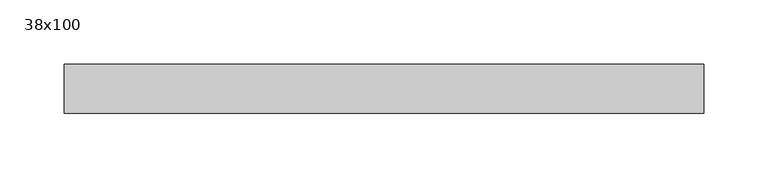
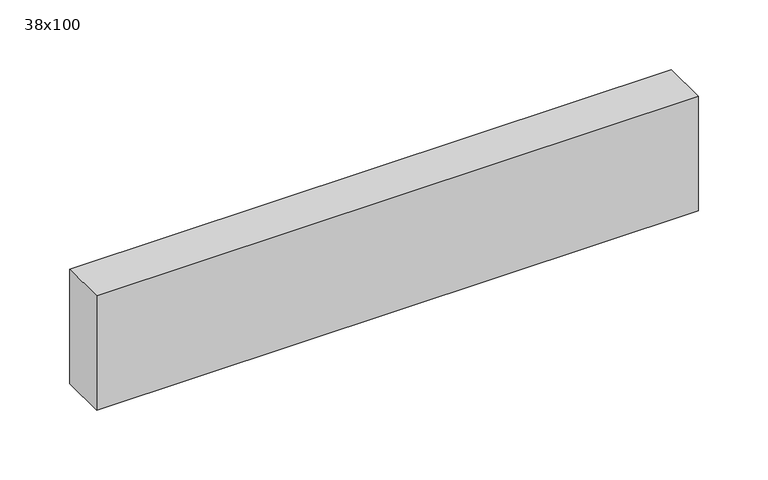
"""IFC4 building model written with IfcOpenShell, lengths in millimetres: beam geometry, Poutre - Bois de construction de dimensions courantes : 38x100."""

from ifc_helpers import new_model, si_unit, frame, origin, place, context, project, spatial, polyline, outline, extrude, source, transform, mapped, element, save


def beam_38x100_e8b27aac(model_context):
    return source(origin(), model_context, "Body", "SweptSolid", [
        extrude(outline(polyline([(168.5, 19.05), (168.5, -19.05), (-328.5, -19.05), (-328.5, 19.05), (168.5, 19.05)])), frame((0.0, 0.0, -50.0), z_axis=(0.0, 0.0, 1.0), x_axis=(1.0, 0.0, 0.0)), (0.0, 0.0, 1.0), 100.0),
    ])


if __name__ == "__main__":
    model = new_model("IFC4")
    model_context = context("Model", 3, world=origin())
    ifc_project = project(units=[si_unit("LENGTHUNIT", "METRE", prefix="MILLI")], contexts=[model_context])
    site = spatial("IfcSite", under=ifc_project)
    building = spatial("IfcBuilding", under=site)
    placement = place(None, origin())
    beam_38x100_shape = beam_38x100_e8b27aac(model_context)
    element("IfcBeam", 1, ObjectType="Poutre - Bois de construction de dimensions courantes : 38x100", at=placement, inside=building, context=model_context, shape_type="MappedRepresentation", body=[
        mapped(beam_38x100_shape, transform((0.0, 0.0, 0.0), x_axis=(1.0, 0.0, 0.0), y_axis=(0.0, 1.0, 0.0), z_axis=(0.0, 0.0, 1.0))),
    ])
    save(model, "model.ifc")
